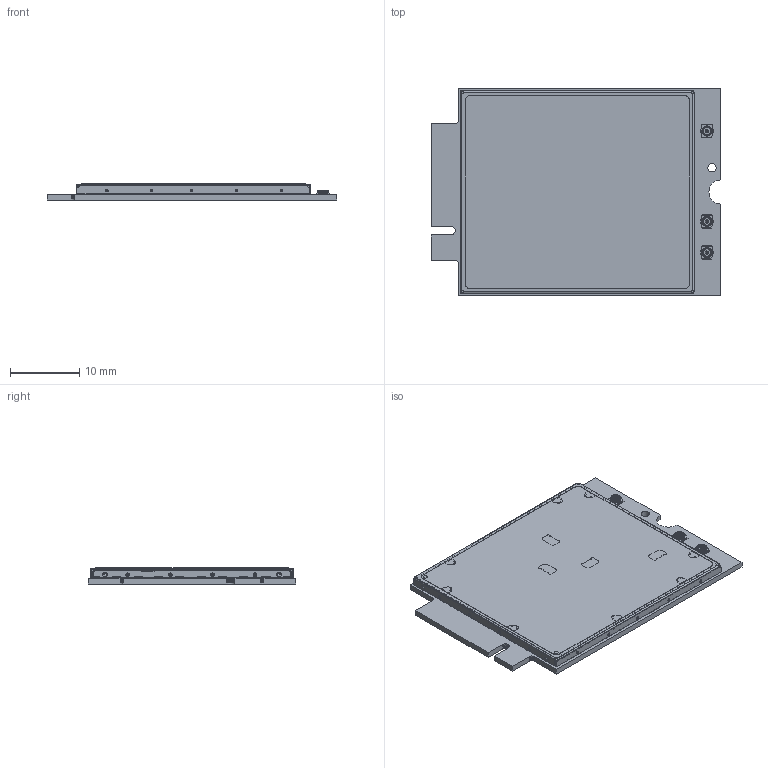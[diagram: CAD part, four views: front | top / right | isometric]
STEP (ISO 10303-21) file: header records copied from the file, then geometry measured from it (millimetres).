
FILE_DESCRIPTION((''),'2;1');
FILE_NAME('EM7430_PCA_SHELL_ASM','2017-06-14T',('wmou'),(''),'PRO/ENGINEER BY PARAMETRIC TECHNOLOGY CORPORATION, 2013130','PRO/ENGINEER BY PARAMETRIC TECHNOLOGY CORPORATION, 2013130','');
FILE_SCHEMA(('CONFIG_CONTROL_DESIGN'));
Length unit declared in the file: millimetre
Products named in the file (6): EM7430_PCA; IPEX_MH4_042512; 1304130; 1304131; 2600399; EM7430_PCA_SHELL_ASM
Assembly tree (7 placements, depth 2):
  EM7430_PCA_SHELL_ASM
    EM7430_PCA
    IPEX_MH4_042512  x3
    1304130
    1304131
    2600399
Bounding box: 42 x 30 x 2.32 mm (x, y, z)
Volume: 1061.5 mm3; surface area: 8461.2 mm2
Topology: 2 solids, 8 shells, 2228 faces, 6264 edges, 3985 vertices
Faces by surface type: cylinder 1075, plane 986, sphere 105, cone 30, bspline 16, torus 16
Entity records: 70298 total; most frequent: CARTESIAN_POINT 13424, DIRECTION 12464, ORIENTED_EDGE 11800, EDGE_CURVE 5900, AXIS2_PLACEMENT_3D 4547, VERTEX_POINT 3821, VECTOR 3370, LINE 3370
